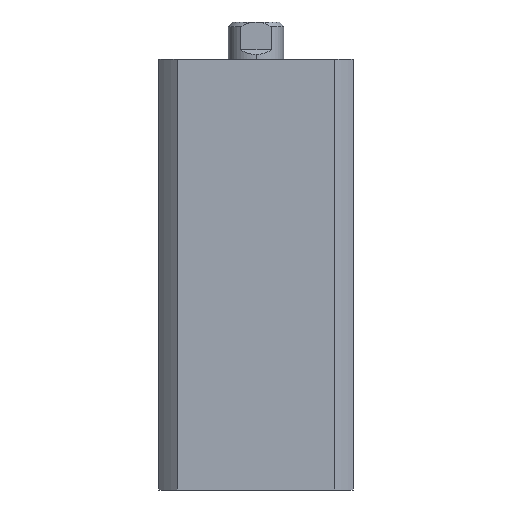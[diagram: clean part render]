
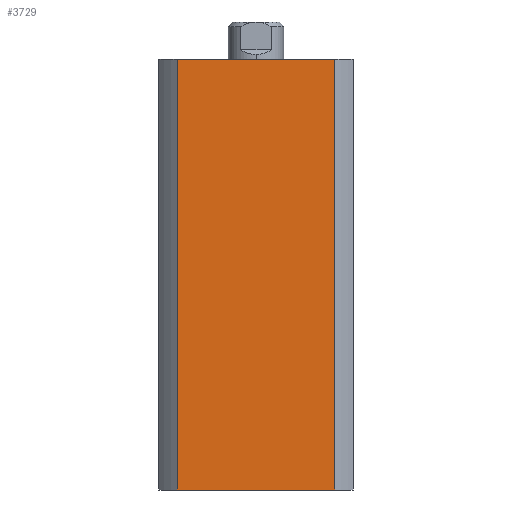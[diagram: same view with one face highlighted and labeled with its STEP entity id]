
A CAD part, left-side view. The second image highlights one B-rep face of the part: STEP entity #3729.
In plain terms, the highlighted planar face has unit normal (-1, 0, 0).
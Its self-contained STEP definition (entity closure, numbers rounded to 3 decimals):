
#18 = CARTESIAN_POINT ( 'NONE',  ( -21., 21., 93. ) ) ;
#38 = DIRECTION ( 'NONE',  ( 0., -1., 0. ) ) ;
#232 = CARTESIAN_POINT ( 'NONE',  ( -21., 21., 0. ) ) ;
#236 = DIRECTION ( 'NONE',  ( 0., -1., 0. ) ) ;
#767 = DIRECTION ( 'NONE',  ( 0., 1., 0. ) ) ;
#774 = DIRECTION ( 'NONE',  ( 1., 0., 0. ) ) ;
#790 = PLANE ( 'NONE',  #2891 ) ;
#820 = CARTESIAN_POINT ( 'NONE',  ( -21., 21., 93. ) ) ;
#1444 = DIRECTION ( 'NONE',  ( 0., 0., 1. ) ) ;
#1445 = CARTESIAN_POINT ( 'NONE',  ( -21., 16.971, 93. ) ) ;
#1446 = DIRECTION ( 'NONE',  ( 0., 0., -1. ) ) ;
#1447 = CARTESIAN_POINT ( 'NONE',  ( -21., -16.971, 93. ) ) ;
#1799 = EDGE_LOOP ( 'NONE', ( #2432, #2433, #2434, #2435 ) ) ;
#1932 = VERTEX_POINT ( 'NONE', #3334 ) ;
#1937 = VERTEX_POINT ( 'NONE', #3442 ) ;
#2156 = CARTESIAN_POINT ( 'NONE',  ( -21., -16.971, 0. ) ) ;
#2432 = ORIENTED_EDGE ( 'NONE', *, *, #4148, .F. ) ;
#2433 = ORIENTED_EDGE ( 'NONE', *, *, #4140, .F. ) ;
#2434 = ORIENTED_EDGE ( 'NONE', *, *, #4149, .F. ) ;
#2435 = ORIENTED_EDGE ( 'NONE', *, *, #4099, .T. ) ;
#2728 = VERTEX_POINT ( 'NONE', #3407 ) ;
#2833 = VERTEX_POINT ( 'NONE', #2156 ) ;
#2891 = AXIS2_PLACEMENT_3D ( 'NONE', #820, #774, #767 ) ;
#3137 = VECTOR ( 'NONE', #1444, 1000. ) ;
#3139 = VECTOR ( 'NONE', #1446, 1000. ) ;
#3140 = LINE ( 'NONE', #1445, #3137 ) ;
#3142 = LINE ( 'NONE', #1447, #3139 ) ;
#3153 = VECTOR ( 'NONE', #38, 1000. ) ;
#3158 = LINE ( 'NONE', #18, #3153 ) ;
#3200 = VECTOR ( 'NONE', #236, 1000. ) ;
#3202 = LINE ( 'NONE', #232, #3200 ) ;
#3334 = CARTESIAN_POINT ( 'NONE',  ( -21., 16.971, 0. ) ) ;
#3407 = CARTESIAN_POINT ( 'NONE',  ( -21., -16.971, 93. ) ) ;
#3442 = CARTESIAN_POINT ( 'NONE',  ( -21., 16.971, 93. ) ) ;
#3729 = ADVANCED_FACE ( 'NONE', ( #4703 ), #790, .F. ) ;
#4099 = EDGE_CURVE ( 'NONE', #1932, #2833, #3202, .T. ) ;
#4140 = EDGE_CURVE ( 'NONE', #1937, #2728, #3158, .T. ) ;
#4148 = EDGE_CURVE ( 'NONE', #2728, #2833, #3142, .T. ) ;
#4149 = EDGE_CURVE ( 'NONE', #1932, #1937, #3140, .T. ) ;
#4703 = FACE_OUTER_BOUND ( 'NONE', #1799, .T. ) ;
